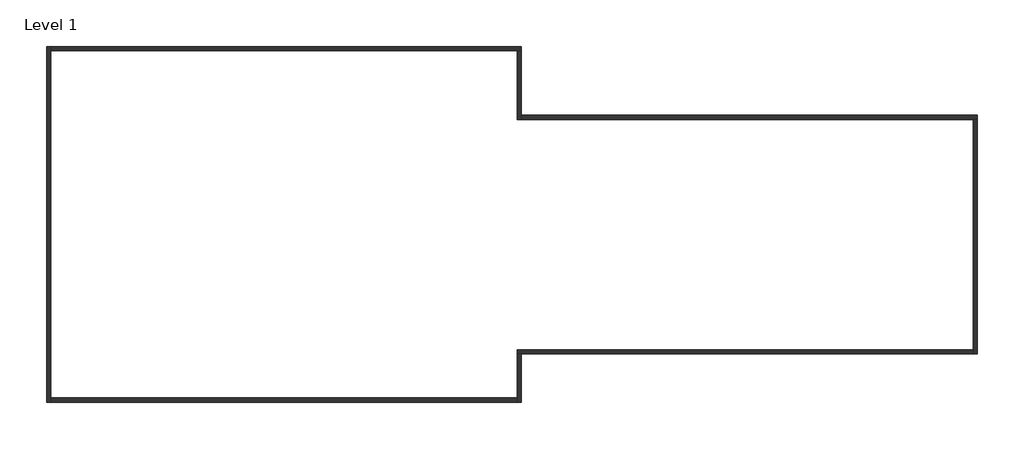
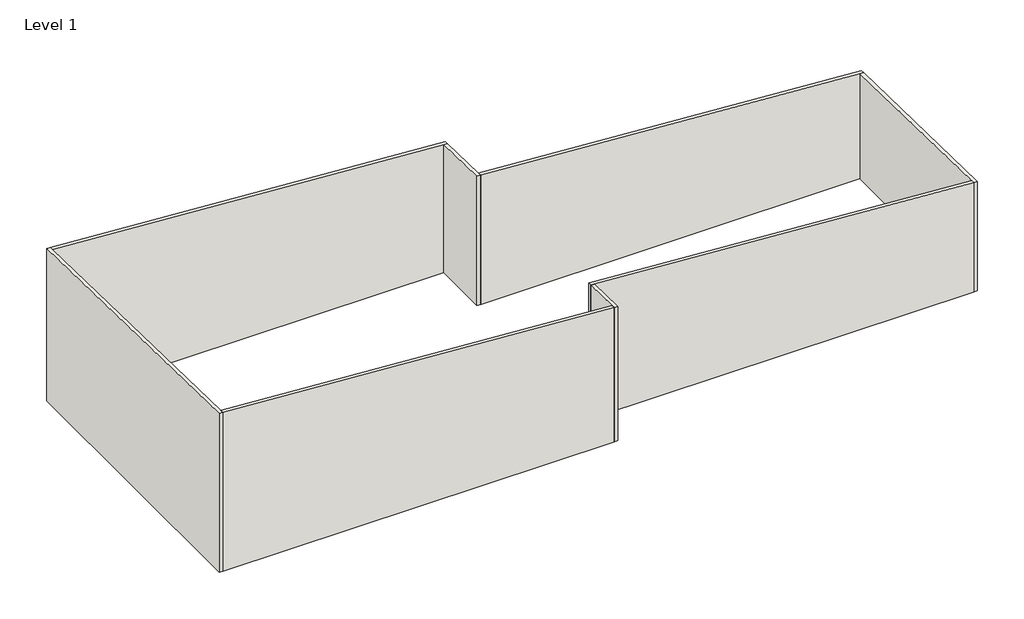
# One storey: 8 walls.
"""IFC4 building model written with IfcOpenShell, lengths in millimetres."""

from ifc_helpers import new_model, si_unit, origin, place, context, project, spatial, faceted_brep, element, save

model = new_model("IFC4")

# Units and contexts
model_context = context("Model", 3, world=origin())
ifc_project = project(units=[si_unit("LENGTHUNIT", "METRE", prefix="MILLI")], contexts=[model_context])

# Site, building, storey
site = spatial("IfcSite", under=ifc_project)
building = spatial("IfcBuilding", under=site)
storey = spatial("IfcBuildingStorey", under=building, Name="Level 1", Elevation=0.0)

# Walls
placement = place(None, origin())
element("IfcWall", 1, ObjectType="CW 102-50-100p", at=placement, inside=storey, context=model_context, shape_type="Brep", body=[
    faceted_brep([(-16234.6891263, -11330.5324035, 0.0), (-16234.6891263, -11066.5324035, 0.0), (-16234.6891263, 10195.4675965, 0.0), (-16234.6891263, 10459.4675965, 0.0), (-16234.6891263, 10459.4675965, 11758.1366263), (-16234.6891263, 10195.4675965, 11763.9574661), (-16234.6891263, -11066.5324035, 12232.7555524), (-16234.6891263, -11330.5324035, 12238.5763922), (-16498.6891263, -11330.5324035, 0.0), (-16498.6891263, -11330.5324035, 12256.0953668), (-16498.6891263, 10459.4675965, 11775.6556009), (-16498.6891263, 10459.4675965, 0.0)], [[[0, 1, 2, 3, 4, 5, 6, 7]], [[8, 9, 10, 11]], [[3, 2, 1, 0, 8, 11]], [[4, 3, 11, 10]], [[0, 7, 9, 8]], [[7, 6, 5, 4, 10, 9]]]),
])
element("IfcWall", 2, ObjectType="CW 102-50-100p", at=placement, inside=storey, context=model_context, shape_type="Brep", body=[
    faceted_brep([(-16234.6891263, 10195.4675965, 0.0), (12287.3108737, 10195.4675965, 0.0), (12551.3108737, 10195.4675965, 0.0), (12551.3108737, 10195.4675965, 9853.7256409), (12287.3108737, 10195.4675965, 9871.2446154), (-16234.6891263, 10195.4675965, 11763.9574661), (-16234.6891263, 10459.4675965, 0.0), (-16234.6891263, 10459.4675965, 11758.1366263), (12551.3108737, 10459.4675965, 9847.9048011), (12551.3108737, 10459.4675965, 0.0)], [[[0, 1, 2, 3, 4, 5]], [[6, 7, 8, 9]], [[2, 1, 0, 6, 9]], [[0, 5, 7, 6]], [[3, 2, 9, 8]], [[5, 4, 3, 8, 7]]]),
])
element("IfcWall", 3, ObjectType="CW 102-50-100p", at=placement, inside=storey, context=model_context, shape_type="Brep", body=[
    faceted_brep([(12287.3108737, 10195.4675965, 0.0), (12287.3108737, 5995.4675965, 0.0), (12287.3108737, 5995.4675965, 9963.8488842), (12287.3108737, 10195.4675965, 9871.2446154), (12551.3108737, 10195.4675965, 0.0), (12551.3108737, 10195.4675965, 9853.7256409), (12551.3108737, 6259.4675965, 9940.5090699), (12551.3108737, 5995.4675965, 9946.3299097), (12551.3108737, 5995.4675965, 0.0), (12551.3108737, 6259.4675965, 0.0)], [[[0, 1, 2, 3]], [[4, 5, 6, 7, 8, 9]], [[1, 0, 4, 9, 8]], [[0, 3, 5, 4]], [[2, 1, 8, 7]], [[3, 2, 7, 6, 5]]]),
])
element("IfcWall", 4, ObjectType="CW 102-50-100p", at=placement, inside=storey, context=model_context, shape_type="Brep", body=[
    faceted_brep([(12551.3108737, 5995.4675965, 0.0), (40197.3108737, 5995.4675965, 0.0), (40461.3108737, 5995.4675965, 0.0), (40461.3108737, 5995.4675965, 8094.2292273), (40197.3108737, 5995.4675965, 8111.7482019), (12551.3108737, 5995.4675965, 9946.3299097), (12551.3108737, 6259.4675965, 0.0), (12551.3108737, 6259.4675965, 9940.5090699), (40461.3108737, 6259.4675965, 8088.4083876), (40461.3108737, 6259.4675965, 0.0)], [[[0, 1, 2, 3, 4, 5]], [[6, 7, 8, 9]], [[2, 1, 0, 6, 9]], [[0, 5, 7, 6]], [[3, 2, 9, 8]], [[5, 4, 3, 8, 7]]]),
])
element("IfcWall", 5, ObjectType="CW 102-50-100p", at=placement, inside=storey, context=model_context, shape_type="Brep", body=[
    faceted_brep([(40197.3108737, 5995.4675965, 0.0), (40197.3108737, -8116.5324035, 0.0), (40197.3108737, -8380.5324035, 0.0), (40197.3108737, -8380.5324035, 8428.7193847), (40197.3108737, -8116.5324035, 8422.898545), (40197.3108737, 5995.4675965, 8111.7482019), (40461.3108737, 5995.4675965, 0.0), (40461.3108737, 5995.4675965, 8094.2292273), (40461.3108737, -8380.5324035, 8411.2004101), (40461.3108737, -8380.5324035, 0.0)], [[[0, 1, 2, 3, 4, 5]], [[6, 7, 8, 9]], [[2, 1, 0, 6, 9]], [[0, 5, 7, 6]], [[3, 2, 9, 8]], [[5, 4, 3, 8, 7]]]),
])
element("IfcWall", 6, ObjectType="CW 102-50-100p", at=placement, inside=storey, context=model_context, shape_type="Brep", body=[
    faceted_brep([(40197.3108737, -8116.5324035, 0.0), (12287.3108737, -8116.5324035, 0.0), (12287.3108737, -8116.5324035, 10274.9992273), (40197.3108737, -8116.5324035, 8422.898545), (40197.3108737, -8380.5324035, 0.0), (40197.3108737, -8380.5324035, 8428.7193847), (12551.3108737, -8380.5324035, 10263.3010925), (12287.3108737, -8380.5324035, 10280.8200671), (12287.3108737, -8380.5324035, 0.0), (12551.3108737, -8380.5324035, 0.0)], [[[0, 1, 2, 3]], [[4, 5, 6, 7, 8, 9]], [[1, 0, 4, 9, 8]], [[0, 3, 5, 4]], [[2, 1, 8, 7]], [[3, 2, 7, 6, 5]]]),
])
element("IfcWall", 7, ObjectType="CW 102-50-100p", at=placement, inside=storey, context=model_context, shape_type="Brep", body=[
    faceted_brep([(12287.3108737, -8380.5324035, 0.0), (12287.3108737, -11066.5324035, 0.0), (12287.3108737, -11330.5324035, 0.0), (12287.3108737, -11330.5324035, 10345.8635415), (12287.3108737, -11066.5324035, 10340.0427018), (12287.3108737, -8380.5324035, 10280.8200671), (12551.3108737, -8380.5324035, 0.0), (12551.3108737, -8380.5324035, 10263.3010925), (12551.3108737, -11330.5324035, 10328.344567), (12551.3108737, -11330.5324035, 0.0)], [[[0, 1, 2, 3, 4, 5]], [[6, 7, 8, 9]], [[2, 1, 0, 6, 9]], [[0, 5, 7, 6]], [[3, 2, 9, 8]], [[5, 4, 3, 8, 7]]]),
])
element("IfcWall", 8, ObjectType="CW 102-50-100p", at=placement, inside=storey, context=model_context, shape_type="Brep", body=[
    faceted_brep([(12287.3108737, -11066.5324035, 0.0), (-16234.6891263, -11066.5324035, 0.0), (-16234.6891263, -11066.5324035, 12232.7555524), (12287.3108737, -11066.5324035, 10340.0427018), (12287.3108737, -11330.5324035, 0.0), (12287.3108737, -11330.5324035, 10345.8635415), (-16234.6891263, -11330.5324035, 12238.5763922), (-16234.6891263, -11330.5324035, 0.0)], [[[0, 1, 2, 3]], [[4, 5, 6, 7]], [[1, 0, 4, 7]], [[0, 3, 5, 4]], [[2, 1, 7, 6]], [[3, 2, 6, 5]]]),
])

save(model, "model.ifc")
